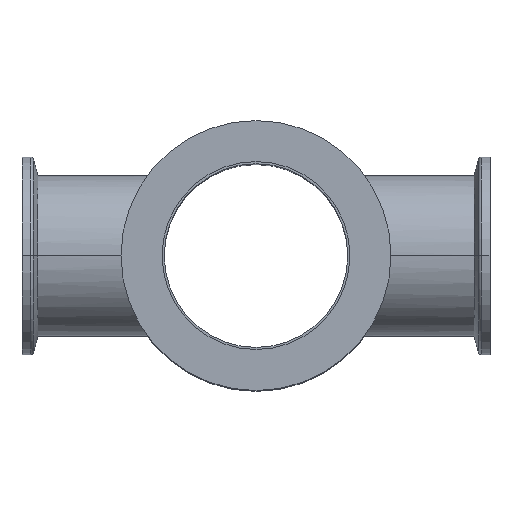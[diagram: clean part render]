
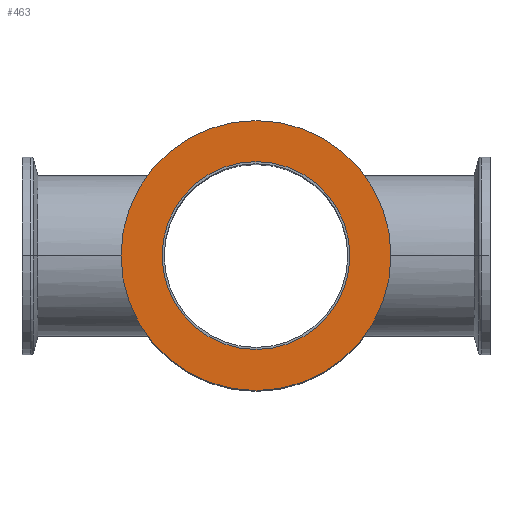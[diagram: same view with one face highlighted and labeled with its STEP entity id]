
A CAD part, top view. The second image highlights one B-rep face of the part: STEP entity #463.
In plain terms, the highlighted planar face has unit normal (0, 0, 1).
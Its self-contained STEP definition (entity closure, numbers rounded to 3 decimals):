
#147 = CARTESIAN_POINT ( 'NONE',  ( 0., 0., 0. ) ) ;
#252 = VERTEX_POINT ( 'NONE', #2434 ) ;
#378 = PLANE ( 'NONE',  #591 ) ;
#381 = CIRCLE ( 'NONE', #2486, 37.5 ) ;
#418 = CARTESIAN_POINT ( 'NONE',  ( -37.5, 0., 0. ) ) ;
#463 = ADVANCED_FACE ( 'NONE', ( #3094, #1889 ), #378, .T. ) ;
#479 = AXIS2_PLACEMENT_3D ( 'NONE', #1870, #626, #2086 ) ;
#512 = VERTEX_POINT ( 'NONE', #2961 ) ;
#528 = CARTESIAN_POINT ( 'NONE',  ( -26.1, 0., 0. ) ) ;
#591 = AXIS2_PLACEMENT_3D ( 'NONE', #2882, #2837, #1873 ) ;
#626 = DIRECTION ( 'NONE',  ( 0., 0., 1. ) ) ;
#640 = EDGE_CURVE ( 'NONE', #1602, #512, #381, .T. ) ;
#702 = ORIENTED_EDGE ( 'NONE', *, *, #640, .T. ) ;
#784 = EDGE_CURVE ( 'NONE', #252, #2672, #1839, .T. ) ;
#926 = EDGE_LOOP ( 'NONE', ( #1616, #3100 ) ) ;
#1039 = ORIENTED_EDGE ( 'NONE', *, *, #2835, .T. ) ;
#1529 = DIRECTION ( 'NONE',  ( 0., 0., 1. ) ) ;
#1565 = EDGE_CURVE ( 'NONE', #2672, #252, #1785, .T. ) ;
#1596 = DIRECTION ( 'NONE',  ( 0., 0., 1. ) ) ;
#1602 = VERTEX_POINT ( 'NONE', #418 ) ;
#1616 = ORIENTED_EDGE ( 'NONE', *, *, #784, .F. ) ;
#1740 = CIRCLE ( 'NONE', #2581, 37.5 ) ;
#1785 = CIRCLE ( 'NONE', #2473, 26.1 ) ;
#1812 = EDGE_LOOP ( 'NONE', ( #1039, #702 ) ) ;
#1839 = CIRCLE ( 'NONE', #479, 26.1 ) ;
#1870 = CARTESIAN_POINT ( 'NONE',  ( 0., 0., 0. ) ) ;
#1873 = DIRECTION ( 'NONE',  ( 1., 0., 0. ) ) ;
#1889 = FACE_BOUND ( 'NONE', #926, .T. ) ;
#2086 = DIRECTION ( 'NONE',  ( 1., 0., 0. ) ) ;
#2434 = CARTESIAN_POINT ( 'NONE',  ( 26.1, 0., 0. ) ) ;
#2473 = AXIS2_PLACEMENT_3D ( 'NONE', #2959, #2910, #3171 ) ;
#2486 = AXIS2_PLACEMENT_3D ( 'NONE', #3013, #1529, #2501 ) ;
#2501 = DIRECTION ( 'NONE',  ( 1., 0., 0. ) ) ;
#2581 = AXIS2_PLACEMENT_3D ( 'NONE', #147, #1596, #3092 ) ;
#2672 = VERTEX_POINT ( 'NONE', #528 ) ;
#2835 = EDGE_CURVE ( 'NONE', #512, #1602, #1740, .T. ) ;
#2837 = DIRECTION ( 'NONE',  ( 0., 0., 1. ) ) ;
#2882 = CARTESIAN_POINT ( 'NONE',  ( 0., 37.5, 0. ) ) ;
#2910 = DIRECTION ( 'NONE',  ( 0., 0., 1. ) ) ;
#2959 = CARTESIAN_POINT ( 'NONE',  ( 0., 0., 0. ) ) ;
#2961 = CARTESIAN_POINT ( 'NONE',  ( 37.5, 0., 0. ) ) ;
#3013 = CARTESIAN_POINT ( 'NONE',  ( 0., 0., 0. ) ) ;
#3092 = DIRECTION ( 'NONE',  ( 1., 0., 0. ) ) ;
#3094 = FACE_OUTER_BOUND ( 'NONE', #1812, .T. ) ;
#3100 = ORIENTED_EDGE ( 'NONE', *, *, #1565, .F. ) ;
#3171 = DIRECTION ( 'NONE',  ( 1., 0., 0. ) ) ;
